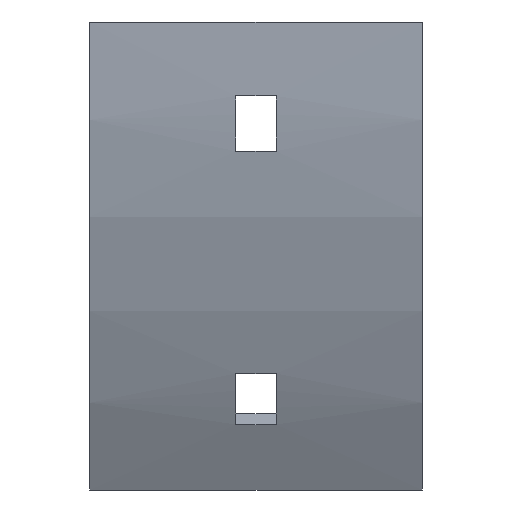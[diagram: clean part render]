
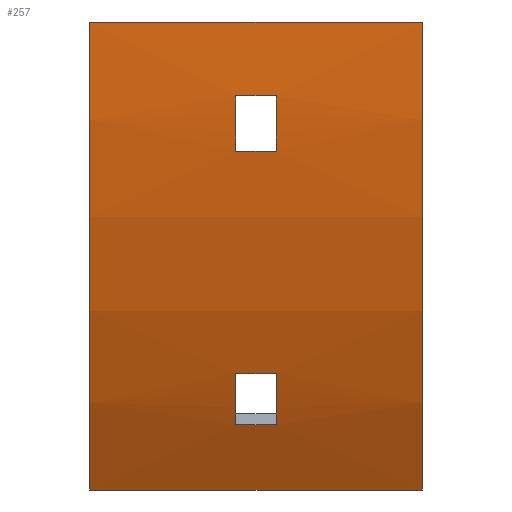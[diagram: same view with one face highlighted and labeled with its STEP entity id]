
A CAD part, front view. The second image highlights one B-rep face of the part: STEP entity #257.
In plain terms, the highlighted cylindrical face has radius 152 mm (diameter 304 mm), a partial arc.
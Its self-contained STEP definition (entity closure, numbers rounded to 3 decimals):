
#13 = DIRECTION ( 'NONE',  ( 0., 0., -1. ) ) ;
#24 = CARTESIAN_POINT ( 'NONE',  ( 3.25, -37.225, -65.37 ) ) ;
#32 = CIRCLE ( 'NONE', #894, 152. ) ;
#33 = CARTESIAN_POINT ( 'NONE',  ( -3.25, 100., 0. ) ) ;
#39 = CARTESIAN_POINT ( 'NONE',  ( -27., -52., 0. ) ) ;
#41 = ORIENTED_EDGE ( 'NONE', *, *, #373, .T. ) ;
#50 = CYLINDRICAL_SURFACE ( 'NONE', #296, 152. ) ;
#51 = VERTEX_POINT ( 'NONE', #703 ) ;
#55 = EDGE_CURVE ( 'NONE', #588, #714, #763, .T. ) ;
#58 = CARTESIAN_POINT ( 'NONE',  ( 27., -31.636, -76. ) ) ;
#59 = CARTESIAN_POINT ( 'NONE',  ( -3.25, -51.526, -12. ) ) ;
#89 = CIRCLE ( 'NONE', #371, 152. ) ;
#93 = CIRCLE ( 'NONE', #751, 152. ) ;
#107 = DIRECTION ( 'NONE',  ( 0., 0., -1. ) ) ;
#136 = EDGE_LOOP ( 'NONE', ( #959, #792, #617, #1017 ) ) ;
#151 = FACE_BOUND ( 'NONE', #509, .T. ) ;
#157 = VERTEX_POINT ( 'NONE', #365 ) ;
#168 = ORIENTED_EDGE ( 'NONE', *, *, #239, .T. ) ;
#183 = EDGE_CURVE ( 'NONE', #576, #638, #93, .T. ) ;
#188 = LINE ( 'NONE', #909, #861 ) ;
#192 = CARTESIAN_POINT ( 'NONE',  ( 27., -31.636, -76. ) ) ;
#221 = LINE ( 'NONE', #482, #691 ) ;
#230 = DIRECTION ( 'NONE',  ( 1., 0., 0. ) ) ;
#239 = EDGE_CURVE ( 'NONE', #787, #990, #479, .T. ) ;
#257 = ADVANCED_FACE ( 'NONE', ( #856, #393, #151 ), #50, .T. ) ;
#291 = CARTESIAN_POINT ( 'NONE',  ( -27., -31.636, -76. ) ) ;
#296 = AXIS2_PLACEMENT_3D ( 'NONE', #322, #1026, #340 ) ;
#320 = CARTESIAN_POINT ( 'NONE',  ( 27., 100., 0. ) ) ;
#321 = CARTESIAN_POINT ( 'NONE',  ( -27., 100., 0. ) ) ;
#322 = CARTESIAN_POINT ( 'NONE',  ( 27., 100., 0. ) ) ;
#334 = LINE ( 'NONE', #501, #824 ) ;
#340 = DIRECTION ( 'NONE',  ( 0., 0., 1. ) ) ;
#344 = EDGE_CURVE ( 'NONE', #638, #582, #1143, .T. ) ;
#350 = CARTESIAN_POINT ( 'NONE',  ( 27., -40.874, -57.085 ) ) ;
#365 = CARTESIAN_POINT ( 'NONE',  ( -3.25, -37.225, -65.37 ) ) ;
#371 = AXIS2_PLACEMENT_3D ( 'NONE', #320, #230, #107 ) ;
#373 = EDGE_CURVE ( 'NONE', #990, #51, #188, .T. ) ;
#380 = DIRECTION ( 'NONE',  ( -1., 0., 0. ) ) ;
#383 = EDGE_CURVE ( 'NONE', #157, #576, #1004, .T. ) ;
#388 = DIRECTION ( 'NONE',  ( 0., 0., 1. ) ) ;
#393 = FACE_BOUND ( 'NONE', #937, .T. ) ;
#414 = DIRECTION ( 'NONE',  ( 0., 0., -1. ) ) ;
#415 = EDGE_CURVE ( 'NONE', #481, #714, #762, .T. ) ;
#438 = VERTEX_POINT ( 'NONE', #507 ) ;
#440 = VECTOR ( 'NONE', #817, 1000. ) ;
#443 = CARTESIAN_POINT ( 'NONE',  ( 3.25, -40.874, -57.085 ) ) ;
#448 = DIRECTION ( 'NONE',  ( 1., 0., 0. ) ) ;
#450 = EDGE_CURVE ( 'NONE', #897, #481, #334, .T. ) ;
#451 = CARTESIAN_POINT ( 'NONE',  ( 27., -37.225, -65.37 ) ) ;
#455 = ORIENTED_EDGE ( 'NONE', *, *, #901, .T. ) ;
#460 = CIRCLE ( 'NONE', #736, 152. ) ;
#465 = DIRECTION ( 'NONE',  ( 1., 0., 0. ) ) ;
#471 = ORIENTED_EDGE ( 'NONE', *, *, #877, .T. ) ;
#477 = CARTESIAN_POINT ( 'NONE',  ( -3.25, -40.874, -57.085 ) ) ;
#479 = CIRCLE ( 'NONE', #785, 152. ) ;
#481 = VERTEX_POINT ( 'NONE', #39 ) ;
#482 = CARTESIAN_POINT ( 'NONE',  ( 27., -50.542, -21. ) ) ;
#501 = CARTESIAN_POINT ( 'NONE',  ( 27., -52., 0. ) ) ;
#503 = ORIENTED_EDGE ( 'NONE', *, *, #183, .F. ) ;
#507 = CARTESIAN_POINT ( 'NONE',  ( 3.25, -50.542, -21. ) ) ;
#509 = EDGE_LOOP ( 'NONE', ( #947, #567, #503, #602 ) ) ;
#510 = DIRECTION ( 'NONE',  ( -1., 0., 0. ) ) ;
#567 = ORIENTED_EDGE ( 'NONE', *, *, #344, .F. ) ;
#573 = DIRECTION ( 'NONE',  ( 0., 0., 1. ) ) ;
#576 = VERTEX_POINT ( 'NONE', #24 ) ;
#582 = VERTEX_POINT ( 'NONE', #477 ) ;
#588 = VERTEX_POINT ( 'NONE', #192 ) ;
#602 = ORIENTED_EDGE ( 'NONE', *, *, #383, .F. ) ;
#616 = AXIS2_PLACEMENT_3D ( 'NONE', #321, #924, #414 ) ;
#617 = ORIENTED_EDGE ( 'NONE', *, *, #678, .F. ) ;
#618 = DIRECTION ( 'NONE',  ( -1., 0., 0. ) ) ;
#638 = VERTEX_POINT ( 'NONE', #443 ) ;
#661 = CARTESIAN_POINT ( 'NONE',  ( 27., -52., 0. ) ) ;
#665 = DIRECTION ( 'NONE',  ( -1., 0., 0. ) ) ;
#678 = EDGE_CURVE ( 'NONE', #897, #588, #89, .T. ) ;
#679 = DIRECTION ( 'NONE',  ( -1., 0., 0. ) ) ;
#691 = VECTOR ( 'NONE', #838, 1000. ) ;
#703 = CARTESIAN_POINT ( 'NONE',  ( 3.25, -51.526, -12. ) ) ;
#714 = VERTEX_POINT ( 'NONE', #291 ) ;
#736 = AXIS2_PLACEMENT_3D ( 'NONE', #898, #448, #13 ) ;
#751 = AXIS2_PLACEMENT_3D ( 'NONE', #1012, #665, #573 ) ;
#762 = CIRCLE ( 'NONE', #616, 152. ) ;
#763 = LINE ( 'NONE', #58, #944 ) ;
#785 = AXIS2_PLACEMENT_3D ( 'NONE', #33, #380, #388 ) ;
#787 = VERTEX_POINT ( 'NONE', #1131 ) ;
#792 = ORIENTED_EDGE ( 'NONE', *, *, #55, .F. ) ;
#796 = EDGE_CURVE ( 'NONE', #582, #157, #32, .T. ) ;
#815 = DIRECTION ( 'NONE',  ( 0., 0., -1. ) ) ;
#817 = DIRECTION ( 'NONE',  ( 1., 0., 0. ) ) ;
#824 = VECTOR ( 'NONE', #679, 1000. ) ;
#838 = DIRECTION ( 'NONE',  ( -1., 0., 0. ) ) ;
#856 = FACE_OUTER_BOUND ( 'NONE', #136, .T. ) ;
#861 = VECTOR ( 'NONE', #465, 1000. ) ;
#877 = EDGE_CURVE ( 'NONE', #51, #438, #460, .T. ) ;
#894 = AXIS2_PLACEMENT_3D ( 'NONE', #1064, #1082, #815 ) ;
#897 = VERTEX_POINT ( 'NONE', #661 ) ;
#898 = CARTESIAN_POINT ( 'NONE',  ( 3.25, 100., 0. ) ) ;
#901 = EDGE_CURVE ( 'NONE', #438, #787, #221, .T. ) ;
#909 = CARTESIAN_POINT ( 'NONE',  ( 27., -51.526, -12. ) ) ;
#918 = VECTOR ( 'NONE', #618, 1000. ) ;
#924 = DIRECTION ( 'NONE',  ( 1., 0., 0. ) ) ;
#937 = EDGE_LOOP ( 'NONE', ( #455, #168, #41, #471 ) ) ;
#944 = VECTOR ( 'NONE', #510, 1000. ) ;
#947 = ORIENTED_EDGE ( 'NONE', *, *, #796, .F. ) ;
#959 = ORIENTED_EDGE ( 'NONE', *, *, #415, .T. ) ;
#990 = VERTEX_POINT ( 'NONE', #59 ) ;
#1004 = LINE ( 'NONE', #451, #440 ) ;
#1012 = CARTESIAN_POINT ( 'NONE',  ( 3.25, 100., 0. ) ) ;
#1017 = ORIENTED_EDGE ( 'NONE', *, *, #450, .T. ) ;
#1026 = DIRECTION ( 'NONE',  ( -1., 0., 0. ) ) ;
#1064 = CARTESIAN_POINT ( 'NONE',  ( -3.25, 100., 0. ) ) ;
#1082 = DIRECTION ( 'NONE',  ( 1., 0., 0. ) ) ;
#1131 = CARTESIAN_POINT ( 'NONE',  ( -3.25, -50.542, -21. ) ) ;
#1143 = LINE ( 'NONE', #350, #918 ) ;
